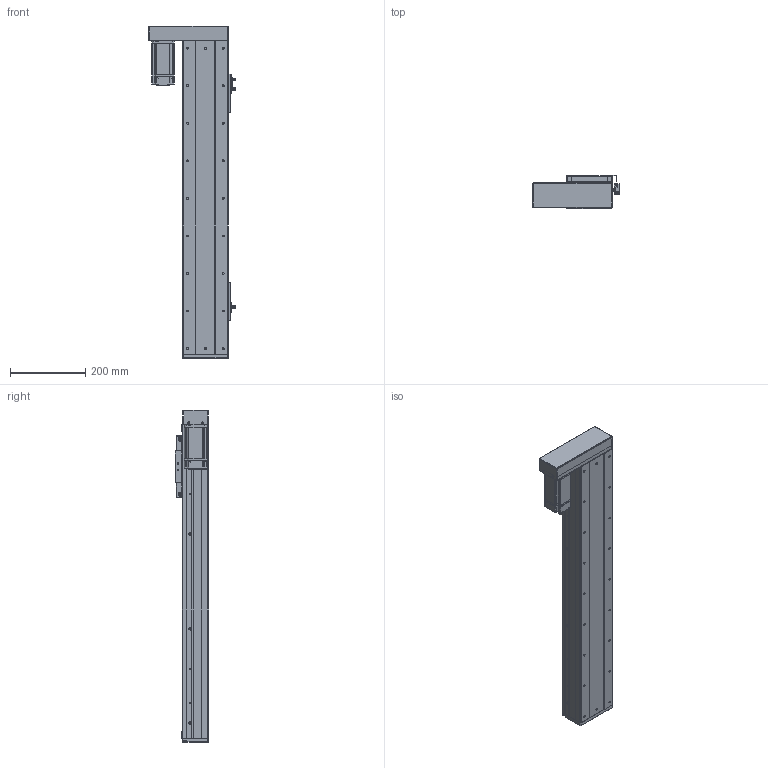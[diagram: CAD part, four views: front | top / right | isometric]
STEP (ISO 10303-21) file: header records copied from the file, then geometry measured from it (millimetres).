
FILE_DESCRIPTION (( 'STEP AP203' ), '1' );
FILE_NAME ('RY120F-L1620-300-LK.SLDASM_600.step', '2021-03-02T08:03:59', ( '盈信电脑' ), ( '东莞市道滘镇水果街19号' ), 'SwSTEP 2.0', 'SolidWorks 2012', '' );
FILE_SCHEMA (( 'CONFIG_CONTROL_DESIGN' ));
Length unit declared in the file: millimetre
Products named in the file (18): RY120F-L1620-300-LK.SLDASM_600; RY120F酘衵殏萇儂啣(200W PCD70 M4); RY120F酘衵殏萇儂欶(200W); 15; 覜茼ん672; RY80俋离覜茼え; 672嫖萇羲壽假蚾釱; FY120F詩湍揤踡輸; RY120F-詩湍幗謫粣; RY120F祥凄詩滅鳥裔; RY120F綴裔啣(臏璃ㄘ; 滅袉蝶18-24; RY120F滅鳥詩湍-300-LK_600; RT120F-臏賑輸奻釱; RY120F转折电机端支撑座; RT120F-臏賑輸 16蹟譫; RT120F-300-倰第裔啣-LK_600; RT120F-300-倰第菁釱-LK_600
Assembly tree (23 placements, depth 2):
  RY120F-L1620-300-LK.SLDASM_600
    RT120F-300-倰第菁釱-LK_600
    RT120F-300-倰第裔啣-LK_600  x2
    RY120F滅鳥詩湍-300-LK_600
    RT120F-臏賑輸 16蹟譫
    RT120F-臏賑輸奻釱
    RY120F转折电机端支撑座
    RY120F祥凄詩滅鳥裔
    滅袉蝶18-24  x2
    RY120F綴裔啣(臏璃ㄘ
    RY120F-詩湍幗謫粣
    覜茼ん672  x3
    672嫖萇羲壽假蚾釱  x2
    RY80俋离覜茼え
    FY120F詩湍揤踡輸  x2
    15
    RY120F酘衵殏萇儂啣(200W PCD70 M4)
    RY120F酘衵殏萇儂欶(200W)
Bounding box: 229.9 x 89 x 884 mm (x, y, z)
Volume: 3247108.6 mm3; surface area: 1180661.6 mm2
Topology: 23 solids, 23 shells, 2091 faces, 5609 edges, 3571 vertices
Faces by surface type: cylinder 936, plane 896, cone 233, bspline 26
Entity records: 58667 total; most frequent: CARTESIAN_POINT 10866, DIRECTION 9893, ORIENTED_EDGE 9250, EDGE_CURVE 4625, AXIS2_PLACEMENT_3D 3578, VERTEX_POINT 3015, LINE 2737, VECTOR 2737
